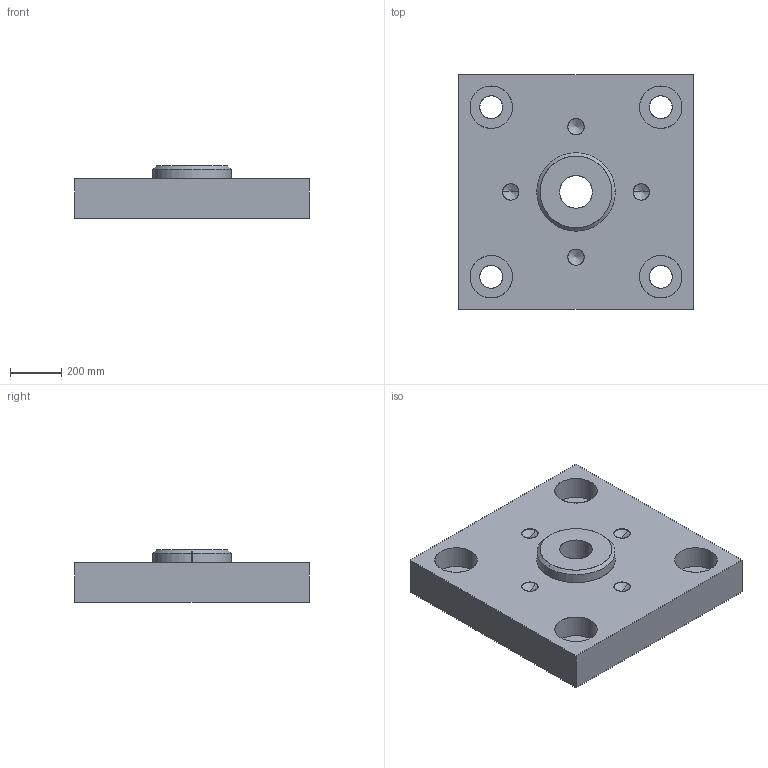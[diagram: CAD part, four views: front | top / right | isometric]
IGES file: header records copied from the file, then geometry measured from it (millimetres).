
Start section: SolidWorks IGES file using analytic representation for surfaces
Global section: file name: C:\Autodesk Simulation Mechanical\c06\Tut02\test\Part4.IGS; native system: SolidWorks 2012; preprocessor: SolidWorks 2012; author: Sham-2011B; date: 121004.143100; units: inch
Bounding box: 914.4 x 914.4 x 203.2 mm (x, y, z)
Surface area: 2536579.5 mm2 (no closed solid volume)
Topology: 0 solids, 0 shells, 49 faces, 1264 edges, 1256 vertices
Faces by surface type: revolution 38, bspline 11
